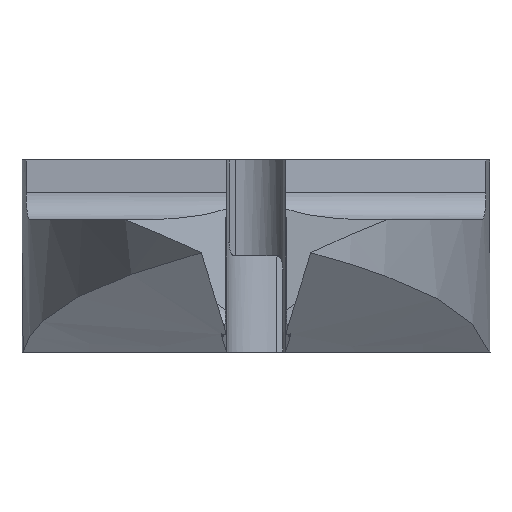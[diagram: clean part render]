
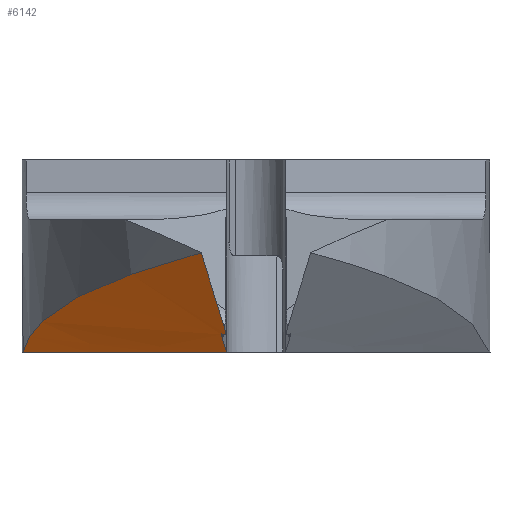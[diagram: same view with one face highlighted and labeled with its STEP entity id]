
A CAD part, left-side view. The second image highlights one B-rep face of the part: STEP entity #6142.
In plain terms, the highlighted free-form (B-spline) face has degree [3, 3] with [6, 4] control points.
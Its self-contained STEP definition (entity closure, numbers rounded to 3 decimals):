
#59 = DIRECTION ( 'NONE',  ( -0.966, 0., 0.259 ) ) ;
#285 = CARTESIAN_POINT ( 'NONE',  ( -15.428, 2.6, 1.32 ) ) ;
#339 = CARTESIAN_POINT ( 'NONE',  ( -14.685, 6.328, 1.348 ) ) ;
#504 = CARTESIAN_POINT ( 'NONE',  ( -12.892, 0., 0.641 ) ) ;
#776 = CARTESIAN_POINT ( 'NONE',  ( -9.198, 5.201, -0.234 ) ) ;
#795 = CARTESIAN_POINT ( 'NONE',  ( -15.342, 7.792, 1.642 ) ) ;
#830 = CARTESIAN_POINT ( 'NONE',  ( -24., 0., 3.617 ) ) ;
#853 = CARTESIAN_POINT ( 'NONE',  ( -11.999, 7.227, 0.697 ) ) ;
#856 = CARTESIAN_POINT ( 'NONE',  ( -9.229, 7.745, 0. ) ) ;
#996 = VECTOR ( 'NONE', #5361, 1000. ) ;
#1009 = B_SPLINE_CURVE_WITH_KNOTS ( 'NONE', 3,
 ( #2434, #6526, #1464, #5023, #1963, #5532 ),
 .UNSPECIFIED., .F., .F.,
 ( 4, 2, 4 ),
 ( 0., 0.004, 0.008 ),
 .UNSPECIFIED. ) ;
#1293 = CARTESIAN_POINT ( 'NONE',  ( -9.85, 0., -0.174 ) ) ;
#1313 = CARTESIAN_POINT ( 'NONE',  ( -19.758, 2.6, 2.481 ) ) ;
#1370 = CARTESIAN_POINT ( 'NONE',  ( -9.229, 7.745, 0. ) ) ;
#1462 = EDGE_CURVE ( 'NONE', #5096, #2041, #5062, .T. ) ;
#1464 = CARTESIAN_POINT ( 'NONE',  ( -9.943, 5.286, 0. ) ) ;
#1696 = ORIENTED_EDGE ( 'NONE', *, *, #3934, .T. ) ;
#1800 = CARTESIAN_POINT ( 'NONE',  ( -9.822, 5.201, -0.067 ) ) ;
#1818 = CARTESIAN_POINT ( 'NONE',  ( -19.672, 7.792, 2.802 ) ) ;
#1853 = CARTESIAN_POINT ( 'NONE',  ( -23.005, 1.028, 3.355 ) ) ;
#1963 = CARTESIAN_POINT ( 'NONE',  ( -10.488, 1.483, 0. ) ) ;
#2041 = VERTEX_POINT ( 'NONE', #4143 ) ;
#2158 = VERTEX_POINT ( 'NONE', #6005 ) ;
#2172 = VERTEX_POINT ( 'NONE', #4468 ) ;
#2297 = CARTESIAN_POINT ( 'NONE',  ( -9.226, 0., -0.341 ) ) ;
#2314 = CARTESIAN_POINT ( 'NONE',  ( -10.474, 0., -0.007 ) ) ;
#2335 = CARTESIAN_POINT ( 'NONE',  ( -24.088, 2.6, 3.641 ) ) ;
#2375 = CARTESIAN_POINT ( 'NONE',  ( -21.397, 2.446, 2.953 ) ) ;
#2434 = CARTESIAN_POINT ( 'NONE',  ( -9.229, 7.745, 0. ) ) ;
#2688 = B_SPLINE_CURVE_WITH_KNOTS ( 'NONE', 3,
 ( #830, #4912, #1853, #5424, #2375, #5924, #2880, #6443, #3383, #339, #3907, #853, #4423, #1370 ),
 .UNSPECIFIED., .F., .F.,
 ( 4, 2, 2, 2, 2, 2, 4 ),
 ( 0., 0.002, 0.004, 0.009, 0.011, 0.013, 0.017 ),
 .UNSPECIFIED. ) ;
#2703 = CARTESIAN_POINT ( 'NONE',  ( -18.093, 0., 2.035 ) ) ;
#2802 = CARTESIAN_POINT ( 'NONE',  ( -9.226, 2.6, -0.341 ) ) ;
#2824 = CARTESIAN_POINT ( 'NONE',  ( -10.445, 5.201, 0.101 ) ) ;
#2845 = CARTESIAN_POINT ( 'NONE',  ( -24.002, 7.792, 3.962 ) ) ;
#2880 = CARTESIAN_POINT ( 'NONE',  ( -18.502, 4.501, 2.257 ) ) ;
#3033 = CARTESIAN_POINT ( 'NONE',  ( -12.892, 0.2, 0.641 ) ) ;
#3330 = CARTESIAN_POINT ( 'NONE',  ( -15.428, 0., 1.32 ) ) ;
#3383 = CARTESIAN_POINT ( 'NONE',  ( -15.99, 5.781, 1.66 ) ) ;
#3554 = CARTESIAN_POINT ( 'NONE',  ( -12.892, 0.067, 0.641 ) ) ;
#3617 = EDGE_CURVE ( 'NONE', #2041, #6265, #2688, .T. ) ;
#3845 = CARTESIAN_POINT ( 'NONE',  ( -15.399, 5.201, 1.428 ) ) ;
#3907 = CARTESIAN_POINT ( 'NONE',  ( -14.017, 6.576, 1.187 ) ) ;
#3910 = LINE ( 'NONE', #5146, #6455 ) ;
#3934 = EDGE_CURVE ( 'NONE', #2172, #2158, #3910, .T. ) ;
#4143 = CARTESIAN_POINT ( 'NONE',  ( -24., 0., 3.617 ) ) ;
#4344 = CARTESIAN_POINT ( 'NONE',  ( -9.14, 7.792, -0.02 ) ) ;
#4367 = CARTESIAN_POINT ( 'NONE',  ( -19.758, 0., 2.481 ) ) ;
#4423 = CARTESIAN_POINT ( 'NONE',  ( -10.627, 7.544, 0.357 ) ) ;
#4468 = CARTESIAN_POINT ( 'NONE',  ( -10.499, 0.2, 0. ) ) ;
#4540 = EDGE_CURVE ( 'NONE', #6265, #2172, #1009, .T. ) ;
#4674 = B_SPLINE_SURFACE_WITH_KNOTS ( 'NONE', 3, 3, ( 
 ( #2297, #2802, #776, #4344 ),
 ( #1293, #4860, #1800, #5370 ),
 ( #2314, #5875, #2824, #6386 ),
 ( #3330, #285, #3845, #795 ),
 ( #4367, #1313, #4877, #1818 ),
 ( #5389, #2335, #5890, #2845 ) ),
 .UNSPECIFIED., .F., .F., .F.,
 ( 4, 2, 4 ),
 ( 4, 4 ),
 ( 0.156, 0.231, 0.746 ),
 ( 0.5, 0.987 ),
 .UNSPECIFIED. ) ;
#4860 = CARTESIAN_POINT ( 'NONE',  ( -9.85, 2.6, -0.174 ) ) ;
#4877 = CARTESIAN_POINT ( 'NONE',  ( -19.729, 5.201, 2.588 ) ) ;
#4912 = CARTESIAN_POINT ( 'NONE',  ( -23.513, 0.525, 3.487 ) ) ;
#4964 = B_SPLINE_CURVE_WITH_KNOTS ( 'NONE', 3,
 ( #3033, #6089, #3554, #504 ),
 .UNSPECIFIED., .F., .F.,
 ( 4, 4 ),
 ( 0., 0. ),
 .UNSPECIFIED. ) ;
#5023 = CARTESIAN_POINT ( 'NONE',  ( -10.373, 2.757, 0. ) ) ;
#5062 = LINE ( 'NONE', #2703, #996 ) ;
#5096 = VERTEX_POINT ( 'NONE', #6479 ) ;
#5146 = CARTESIAN_POINT ( 'NONE',  ( -16.657, 0.2, 1.65 ) ) ;
#5361 = DIRECTION ( 'NONE',  ( -0.966, 0., 0.259 ) ) ;
#5370 = CARTESIAN_POINT ( 'NONE',  ( -9.764, 7.792, 0.147 ) ) ;
#5389 = CARTESIAN_POINT ( 'NONE',  ( -24.088, 0., 3.641 ) ) ;
#5424 = CARTESIAN_POINT ( 'NONE',  ( -21.948, 1.988, 3.089 ) ) ;
#5452 = ORIENTED_EDGE ( 'NONE', *, *, #5813, .T. ) ;
#5532 = CARTESIAN_POINT ( 'NONE',  ( -10.499, 0.2, 0. ) ) ;
#5673 = ORIENTED_EDGE ( 'NONE', *, *, #4540, .T. ) ;
#5728 = FACE_OUTER_BOUND ( 'NONE', #6069, .T. ) ;
#5806 = ORIENTED_EDGE ( 'NONE', *, *, #3617, .T. ) ;
#5813 = EDGE_CURVE ( 'NONE', #2158, #5096, #4964, .T. ) ;
#5875 = CARTESIAN_POINT ( 'NONE',  ( -10.474, 2.6, -0.007 ) ) ;
#5890 = CARTESIAN_POINT ( 'NONE',  ( -24.059, 5.201, 3.748 ) ) ;
#5924 = CARTESIAN_POINT ( 'NONE',  ( -19.696, 3.744, 2.539 ) ) ;
#6005 = CARTESIAN_POINT ( 'NONE',  ( -12.892, 0.2, 0.641 ) ) ;
#6069 = EDGE_LOOP ( 'NONE', ( #5806, #5673, #1696, #5452, #6407 ) ) ;
#6089 = CARTESIAN_POINT ( 'NONE',  ( -12.892, 0.133, 0.641 ) ) ;
#6142 = ADVANCED_FACE ( 'NONE', ( #5728 ), #4674, .T. ) ;
#6265 = VERTEX_POINT ( 'NONE', #856 ) ;
#6386 = CARTESIAN_POINT ( 'NONE',  ( -10.388, 7.792, 0.315 ) ) ;
#6407 = ORIENTED_EDGE ( 'NONE', *, *, #1462, .T. ) ;
#6443 = CARTESIAN_POINT ( 'NONE',  ( -16.629, 5.481, 1.812 ) ) ;
#6455 = VECTOR ( 'NONE', #59, 1000. ) ;
#6479 = CARTESIAN_POINT ( 'NONE',  ( -12.892, 0., 0.641 ) ) ;
#6526 = CARTESIAN_POINT ( 'NONE',  ( -9.63, 6.527, 0. ) ) ;
